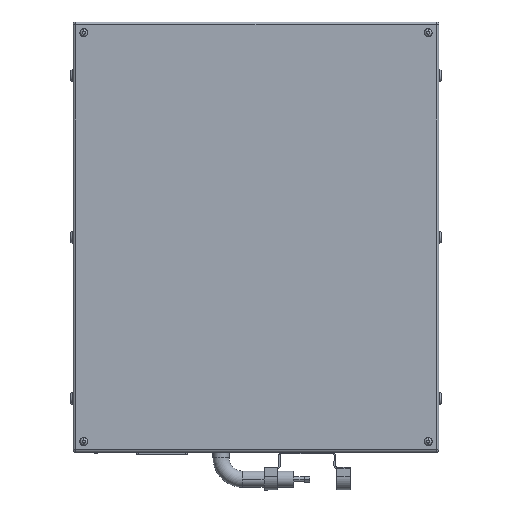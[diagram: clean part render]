
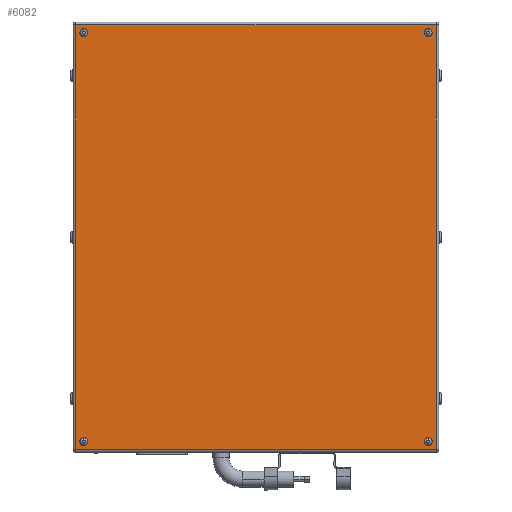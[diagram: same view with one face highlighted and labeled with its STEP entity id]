
A CAD part, front view. The second image highlights one B-rep face of the part: STEP entity #6082.
In plain terms, the highlighted planar face has unit normal (0, -1, 0).
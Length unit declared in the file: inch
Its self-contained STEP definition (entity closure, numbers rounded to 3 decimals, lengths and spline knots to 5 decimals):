
#44 = CIRCLE ( 'NONE', #18886, 0.37402 ) ;
#296 = FACE_OUTER_BOUND ( 'NONE', #6523, .T. ) ;
#379 = CARTESIAN_POINT ( 'NONE',  ( -16., -11., -19.37402 ) ) ;
#551 = DIRECTION ( 'NONE',  ( 0., 0., -1. ) ) ;
#683 = DIRECTION ( 'NONE',  ( 0., -1., 0. ) ) ;
#892 = CARTESIAN_POINT ( 'NONE',  ( -16.734, -11., -19.8 ) ) ;
#923 = DIRECTION ( 'NONE',  ( 0., 0., -1. ) ) ;
#1128 = AXIS2_PLACEMENT_3D ( 'NONE', #13131, #9437, #6456 ) ;
#1380 = CARTESIAN_POINT ( 'NONE',  ( -16., -11., -18.62598 ) ) ;
#1539 = CARTESIAN_POINT ( 'NONE',  ( -16., -11., -19. ) ) ;
#1635 = DIRECTION ( 'NONE',  ( -1., 0., 0. ) ) ;
#1869 = FACE_BOUND ( 'NONE', #15066, .T. ) ;
#1919 = CARTESIAN_POINT ( 'NONE',  ( -16., -11., 19. ) ) ;
#2005 = CARTESIAN_POINT ( 'NONE',  ( -16.734, -11., -19.734 ) ) ;
#2578 = CARTESIAN_POINT ( 'NONE',  ( 0., -11., 0. ) ) ;
#2603 = EDGE_CURVE ( 'NONE', #11371, #4937, #11115, .T. ) ;
#2954 = VERTEX_POINT ( 'NONE', #11297 ) ;
#3028 = LINE ( 'NONE', #13799, #15197 ) ;
#3159 = AXIS2_PLACEMENT_3D ( 'NONE', #9299, #4653, #12458 ) ;
#3243 = ORIENTED_EDGE ( 'NONE', *, *, #10704, .F. ) ;
#3621 = FACE_BOUND ( 'NONE', #19016, .T. ) ;
#4234 = DIRECTION ( 'NONE',  ( 0., -1., 0. ) ) ;
#4255 = CIRCLE ( 'NONE', #7984, 0.37402 ) ;
#4653 = DIRECTION ( 'NONE',  ( 0., -1., 0. ) ) ;
#4826 = EDGE_CURVE ( 'NONE', #7712, #8765, #13576, .T. ) ;
#4937 = VERTEX_POINT ( 'NONE', #18268 ) ;
#5301 = CIRCLE ( 'NONE', #8693, 0.37402 ) ;
#5535 = EDGE_CURVE ( 'NONE', #12538, #20046, #6521, .T. ) ;
#5612 = ORIENTED_EDGE ( 'NONE', *, *, #19845, .F. ) ;
#5835 = DIRECTION ( 'NONE',  ( 0., -1., 0. ) ) ;
#5850 = CARTESIAN_POINT ( 'NONE',  ( 16.734, -11., 19.734 ) ) ;
#6063 = DIRECTION ( 'NONE',  ( 0., 0., 1. ) ) ;
#6082 = ADVANCED_FACE ( 'NONE', ( #1869, #8290, #3621, #13361, #296 ), #19735, .T. ) ;
#6095 = ORIENTED_EDGE ( 'NONE', *, *, #4826, .F. ) ;
#6225 = VERTEX_POINT ( 'NONE', #11938 ) ;
#6245 = CARTESIAN_POINT ( 'NONE',  ( -16.8, -11., 19.734 ) ) ;
#6456 = DIRECTION ( 'NONE',  ( 0., 0., -1. ) ) ;
#6521 = CIRCLE ( 'NONE', #3159, 0.37402 ) ;
#6523 = EDGE_LOOP ( 'NONE', ( #17803, #19636, #13614, #11091 ) ) ;
#7712 = VERTEX_POINT ( 'NONE', #17307 ) ;
#7754 = CARTESIAN_POINT ( 'NONE',  ( 16., -11., 19.37402 ) ) ;
#7849 = DIRECTION ( 'NONE',  ( 1., 0., 0. ) ) ;
#7945 = DIRECTION ( 'NONE',  ( 0., 0., -1. ) ) ;
#7984 = AXIS2_PLACEMENT_3D ( 'NONE', #14774, #10093, #9995 ) ;
#8126 = EDGE_CURVE ( 'NONE', #2954, #8553, #4255, .T. ) ;
#8290 = FACE_BOUND ( 'NONE', #12215, .T. ) ;
#8384 = DIRECTION ( 'NONE',  ( 0., 0., -1. ) ) ;
#8553 = VERTEX_POINT ( 'NONE', #15306 ) ;
#8693 = AXIS2_PLACEMENT_3D ( 'NONE', #1919, #11516, #551 ) ;
#8765 = VERTEX_POINT ( 'NONE', #10195 ) ;
#8880 = AXIS2_PLACEMENT_3D ( 'NONE', #1539, #20653, #7945 ) ;
#9299 = CARTESIAN_POINT ( 'NONE',  ( 16., -11., 19. ) ) ;
#9385 = CARTESIAN_POINT ( 'NONE',  ( 16., -11., 18.62598 ) ) ;
#9437 = DIRECTION ( 'NONE',  ( 0., -1., 0. ) ) ;
#9995 = DIRECTION ( 'NONE',  ( 0., 0., -1. ) ) ;
#10093 = DIRECTION ( 'NONE',  ( 0., -1., 0. ) ) ;
#10132 = AXIS2_PLACEMENT_3D ( 'NONE', #2578, #4234, #11854 ) ;
#10195 = CARTESIAN_POINT ( 'NONE',  ( -16., -11., 19.37402 ) ) ;
#10704 = EDGE_CURVE ( 'NONE', #19151, #11875, #44, .T. ) ;
#10766 = EDGE_CURVE ( 'NONE', #6225, #11371, #3028, .T. ) ;
#10874 = AXIS2_PLACEMENT_3D ( 'NONE', #17142, #5835, #923 ) ;
#11057 = DIRECTION ( 'NONE',  ( 0., 0., -1. ) ) ;
#11091 = ORIENTED_EDGE ( 'NONE', *, *, #19311, .T. ) ;
#11115 = LINE ( 'NONE', #6245, #18021 ) ;
#11297 = CARTESIAN_POINT ( 'NONE',  ( 16., -11., -18.62598 ) ) ;
#11371 = VERTEX_POINT ( 'NONE', #5850 ) ;
#11516 = DIRECTION ( 'NONE',  ( 0., -1., 0. ) ) ;
#11571 = CIRCLE ( 'NONE', #8880, 0.37402 ) ;
#11850 = EDGE_CURVE ( 'NONE', #20046, #12538, #20219, .T. ) ;
#11854 = DIRECTION ( 'NONE',  ( 0., 0., -1. ) ) ;
#11875 = VERTEX_POINT ( 'NONE', #379 ) ;
#11938 = CARTESIAN_POINT ( 'NONE',  ( 16.734, -11., -19.734 ) ) ;
#11981 = LINE ( 'NONE', #17342, #15097 ) ;
#12152 = AXIS2_PLACEMENT_3D ( 'NONE', #15039, #683, #8384 ) ;
#12215 = EDGE_LOOP ( 'NONE', ( #5612, #6095 ) ) ;
#12433 = VERTEX_POINT ( 'NONE', #2005 ) ;
#12458 = DIRECTION ( 'NONE',  ( 0., 0., -1. ) ) ;
#12538 = VERTEX_POINT ( 'NONE', #7754 ) ;
#12780 = EDGE_CURVE ( 'NONE', #8553, #2954, #15915, .T. ) ;
#13131 = CARTESIAN_POINT ( 'NONE',  ( -16., -11., 19. ) ) ;
#13211 = EDGE_CURVE ( 'NONE', #11875, #19151, #11571, .T. ) ;
#13361 = FACE_BOUND ( 'NONE', #20003, .T. ) ;
#13420 = ORIENTED_EDGE ( 'NONE', *, *, #12780, .F. ) ;
#13576 = CIRCLE ( 'NONE', #1128, 0.37402 ) ;
#13614 = ORIENTED_EDGE ( 'NONE', *, *, #15586, .T. ) ;
#13799 = CARTESIAN_POINT ( 'NONE',  ( 16.734, -11., 19.8 ) ) ;
#14330 = ORIENTED_EDGE ( 'NONE', *, *, #5535, .F. ) ;
#14774 = CARTESIAN_POINT ( 'NONE',  ( 16., -11., -19. ) ) ;
#15039 = CARTESIAN_POINT ( 'NONE',  ( 16., -11., 19. ) ) ;
#15066 = EDGE_LOOP ( 'NONE', ( #14330, #18283 ) ) ;
#15097 = VECTOR ( 'NONE', #7849, 39.37008 ) ;
#15197 = VECTOR ( 'NONE', #6063, 39.37008 ) ;
#15204 = ORIENTED_EDGE ( 'NONE', *, *, #13211, .F. ) ;
#15306 = CARTESIAN_POINT ( 'NONE',  ( 16., -11., -19.37402 ) ) ;
#15408 = ORIENTED_EDGE ( 'NONE', *, *, #8126, .F. ) ;
#15586 = EDGE_CURVE ( 'NONE', #4937, #12433, #17325, .T. ) ;
#15683 = CARTESIAN_POINT ( 'NONE',  ( -16., -11., -19. ) ) ;
#15915 = CIRCLE ( 'NONE', #10874, 0.37402 ) ;
#17142 = CARTESIAN_POINT ( 'NONE',  ( 16., -11., -19. ) ) ;
#17307 = CARTESIAN_POINT ( 'NONE',  ( -16., -11., 18.62598 ) ) ;
#17325 = LINE ( 'NONE', #892, #19385 ) ;
#17342 = CARTESIAN_POINT ( 'NONE',  ( 16.8, -11., -19.734 ) ) ;
#17803 = ORIENTED_EDGE ( 'NONE', *, *, #10766, .T. ) ;
#18021 = VECTOR ( 'NONE', #1635, 39.37008 ) ;
#18268 = CARTESIAN_POINT ( 'NONE',  ( -16.734, -11., 19.734 ) ) ;
#18283 = ORIENTED_EDGE ( 'NONE', *, *, #11850, .F. ) ;
#18886 = AXIS2_PLACEMENT_3D ( 'NONE', #15683, #20393, #11057 ) ;
#19016 = EDGE_LOOP ( 'NONE', ( #15408, #13420 ) ) ;
#19151 = VERTEX_POINT ( 'NONE', #1380 ) ;
#19311 = EDGE_CURVE ( 'NONE', #12433, #6225, #11981, .T. ) ;
#19385 = VECTOR ( 'NONE', #20452, 39.37008 ) ;
#19636 = ORIENTED_EDGE ( 'NONE', *, *, #2603, .T. ) ;
#19735 = PLANE ( 'NONE',  #10132 ) ;
#19845 = EDGE_CURVE ( 'NONE', #8765, #7712, #5301, .T. ) ;
#20003 = EDGE_LOOP ( 'NONE', ( #3243, #15204 ) ) ;
#20046 = VERTEX_POINT ( 'NONE', #9385 ) ;
#20219 = CIRCLE ( 'NONE', #12152, 0.37402 ) ;
#20393 = DIRECTION ( 'NONE',  ( 0., -1., 0. ) ) ;
#20452 = DIRECTION ( 'NONE',  ( 0., 0., -1. ) ) ;
#20653 = DIRECTION ( 'NONE',  ( 0., -1., 0. ) ) ;
